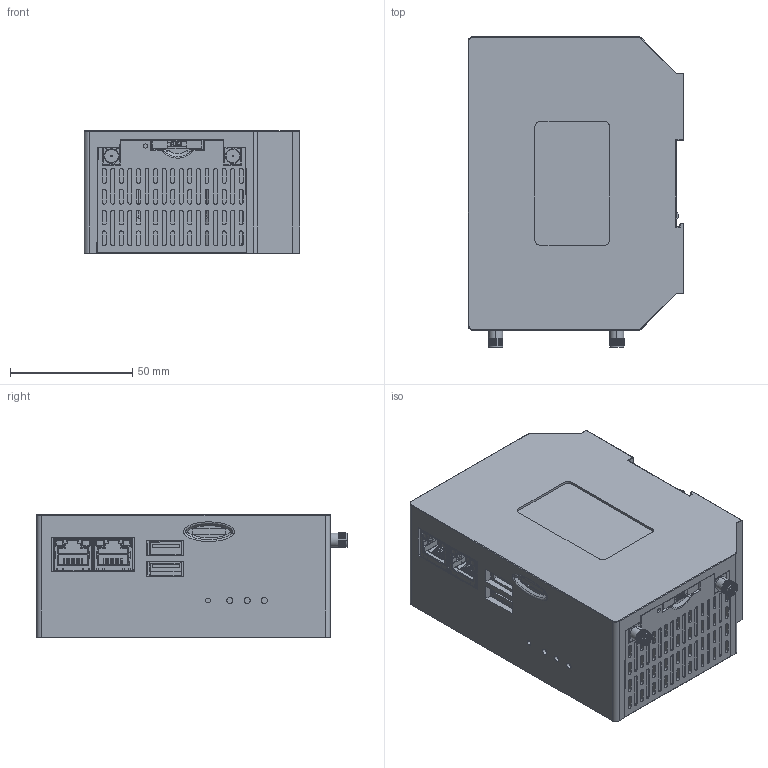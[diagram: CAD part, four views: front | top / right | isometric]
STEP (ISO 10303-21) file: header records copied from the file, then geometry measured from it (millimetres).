
FILE_DESCRIPTION (( 'STEP AP203' ), '1' );
FILE_NAME ('CBOX 籵蚚3D.STEP', '2024-06-28T03:09:08', ( 'h''w''s''j''s' ), ( '' ), 'SwSTEP 2.0', 'SolidWorks 2020', '' );
FILE_SCHEMA (( 'CONFIG_CONTROL_DESIGN' ));
Length unit declared in the file: millimetre
Products named in the file (1): CBOX 籵蚚3D
Bounding box: 88 x 127 x 50 mm (x, y, z)
Volume: 449986.9 mm3; surface area: 86554.4 mm2
Topology: 29 solids, 31 shells, 3231 faces, 8689 edges, 5555 vertices
Faces by surface type: plane 2233, cylinder 794, cone 64, bspline 60, sphere 46, torus 34
Entity records: 102901 total; most frequent: CARTESIAN_POINT 21407, ORIENTED_EDGE 17268, DIRECTION 16268, EDGE_CURVE 8634, LINE 6652, VECTOR 6652, VERTEX_POINT 5551, AXIS2_PLACEMENT_3D 4808
